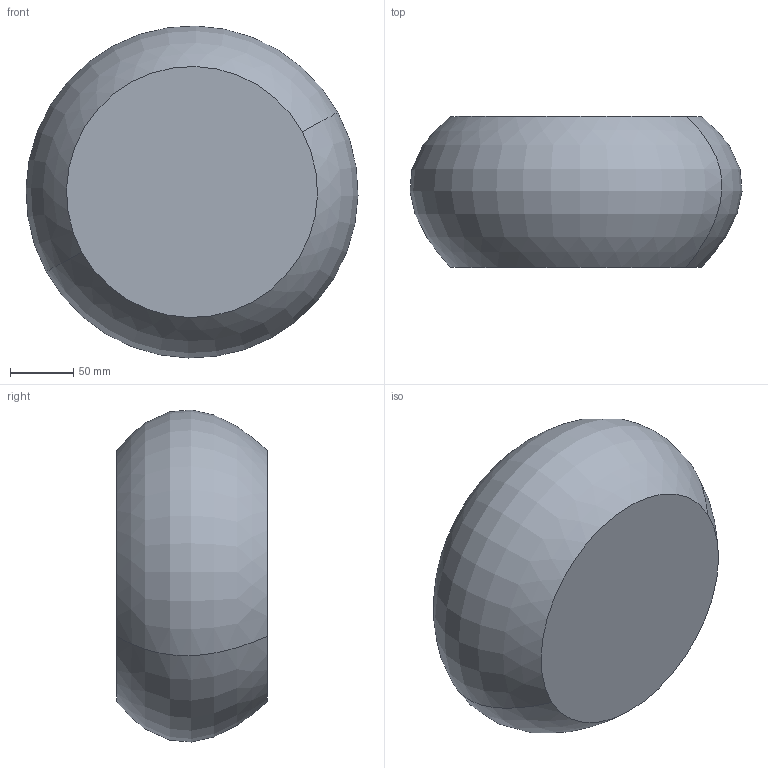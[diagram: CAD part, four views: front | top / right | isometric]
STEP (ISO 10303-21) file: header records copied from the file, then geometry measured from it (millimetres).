
FILE_DESCRIPTION(('CATIA V5 STEP Exchange'),'2;1');
FILE_NAME('C:\_Andres\UNIVERSIDAD\IQS\ASIGNATURAS\DAO\EXF\EXF-15161c\1original\Formosa_Marín_Ej10-decora_v9.stp','2016-03-04T22:24:12+00:00',('none'),('none'),'CATIA Version 5 Release 20 SP 1 (IN-10)','CATIA V5 STEP AP203','none');
FILE_SCHEMA(('CONFIG_CONTROL_DESIGN'));
Length unit declared in the file: millimetre
Products named in the file (1): Formosa_Marín_Ej10-decora_v9
Bounding box: 261.88 x 119 x 261.88 mm (x, y, z)
Volume: 5454450.9 mm3; surface area: 165936 mm2
Topology: 1 solids, 1 shells, 4 faces, 6 edges, 4 vertices
Faces by surface type: revolution 2, plane 2
Entity records: 166 total; most frequent: CARTESIAN_POINT 50, DIRECTION 12, ORIENTED_EDGE 12, AXIS2_PLACEMENT_3D 8, EDGE_CURVE 6, ADVANCED_FACE 4, B_SPLINE_CURVE_WITH_KNOTS 4, CC_DESIGN_PERSON_AND_ORGANIZATION_ASSIGNMENT 4
